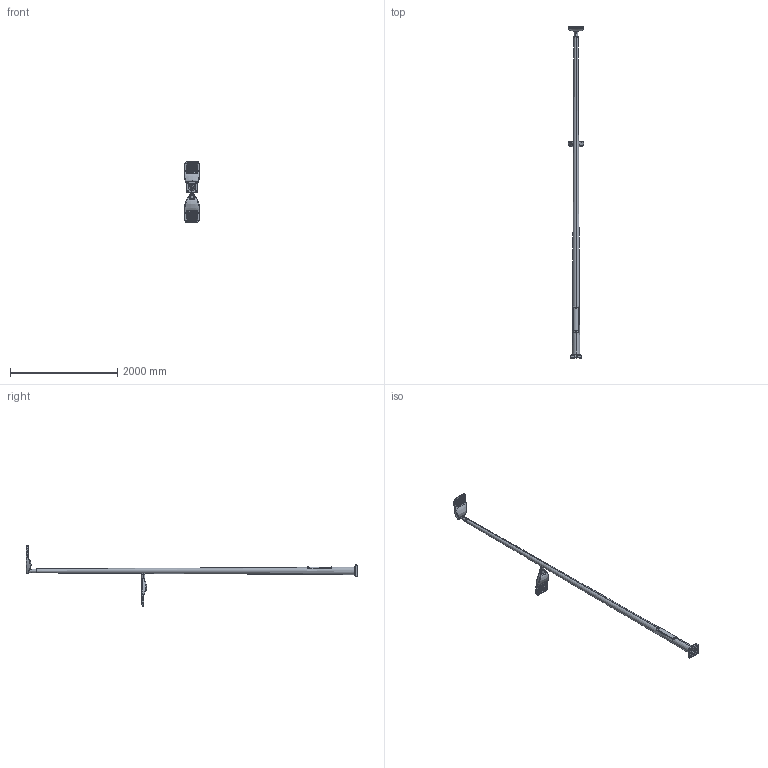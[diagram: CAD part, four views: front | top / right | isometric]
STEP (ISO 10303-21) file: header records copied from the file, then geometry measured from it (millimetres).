
FILE_DESCRIPTION (( 'STEP AP214' ), '1' );
FILE_NAME ('verta-2-6(60)-4(60)-(Ê200-150-4õ20)-ö+ïî.STEP', '2021-07-13T09:01:44', ( '' ), ( '' ), 'SwSTEP 2.0', 'SolidWorks 2020', '' );
FILE_SCHEMA (( 'AUTOMOTIVE_DESIGN' ));
Length unit declared in the file: millimetre
Products named in the file (22): BS-200(Ä139) -ïîëóêðûøêà (200-141); 栺鍣罻-verta-2-6; 200õ200õ10 (142),ì.ö.150, 4õ20_Ôëàíåö; BS-200(Ä139)-Ïîëóêðûøêà (200-141); Ñâåòèëüíèê SL7503-Âåðòà 40-60 Âò_180 ãðàä; SL7503-疋弪桦桕_2; BS-200(Ä139)- Äåêîðàòèâíûé öîêîëü; Ïëàíêà çàçåìëåíèÿ 35õ20; 膴樖錼膻嬅90 蜸馯; DIN-ðåéêà_ŽƒŠ-6; Îïîðà verta-2-6(60)-4(60)-(Ê200-150-4õ20)-ãö+ïî; ﾂ褞 40-60 ﾂ90 胙琅; 署赅 膻赅-verta-6; verta-2-6(60)-4(60)-(Ê200-150-4õ20)-ö+ïî; socket button head screw_iso_ISO 7380 - M6 x 16 - 16N; 妈眚 󊬱6 ISO 7380-1_16; 膴樖錼膻嬅180 蜸馯; ﾒ矜-verta-6; Ñòàíäàðíûå_Ðåçüáîâàÿ çàêë¸ïêà Ì6_Šàã£« ï à¥§ì¡®¢ ï § ª«¥¯ª  Œ8 á æ¨«¨­¤à¨ç¥áª¨¬ ¡ãàâ®¬ ®âªàëâ®£® â¨¯  ¨§ ­¥à¦ ¢¥îé¥© áâ «¨; BS-200(Ä139)-Ïëàòèê
Assembly tree (28 placements, depth 4):
  verta-2-6(60)-4(60)-(Ê200-150-4õ20)-ö+ïî
    Îïîðà verta-2-6(60)-4(60)-(Ê200-150-4õ20)-ãö+ïî
      栺鍣罻-verta-2-6
        栺鍣罻-verta-2-6
        200õ200õ10 (142),ì.ö.150, 4õ20_Ôëàíåö
        Ïëàíêà çàçåìëåíèÿ 35õ20
        DIN-ðåéêà_ŽƒŠ-6
        ﾒ矜-verta-6  x2
      署赅 膻赅-verta-6
      Ñòàíäàðíûå_Ðåçüáîâàÿ çàêë¸ïêà Ì6_Šàã£« ï à¥§ì¡®¢ ï § ª«¥¯ª  Œ8 á æ¨«¨­¤à¨ç¥áª¨¬ ¡ãàâ®¬ ®âªàëâ®£® â¨¯  ¨§ ­¥à¦ ¢¥îé¥© áâ «¨  x2
      socket button head screw_iso_ISO 7380 - M6 x 16 - 16N  x2
    ﾂ褞 40-60 ﾂ90 胙琅
      SL7503-疋弪桦桕_2
      膴樖錼膻嬅90 蜸馯
    BS-200(Ä139)- Äåêîðàòèâíûé öîêîëü
      BS-200(Ä139)-Ïîëóêðûøêà (200-141)
        BS-200(Ä139) -ïîëóêðûøêà (200-141)
        BS-200(Ä139)-Ïëàòèê
      BS-200(Ä139)-Ïîëóêðûøêà (200-141)
        BS-200(Ä139) -ïîëóêðûøêà (200-141)
        BS-200(Ä139)-Ïëàòèê
      妈眚 󊬱6 ISO 7380-1_16  x2
    Ñâåòèëüíèê SL7503-Âåðòà 40-60 Âò_180 ãðàä
      膴樖錼膻嬅180 蜸馯
      SL7503-疋弪桦桕_2
Bounding box: 289.03 x 6197.42 x 1142.86 mm (x, y, z)
Volume: 18026041.2 mm3; surface area: 5259057.6 mm2
Topology: 21 solids, 21 shells, 1176 faces, 2716 edges, 1698 vertices
Faces by surface type: plane 506, cone 252, cylinder 244, bspline 116, torus 38, sphere 20
Entity records: 32015 total; most frequent: CARTESIAN_POINT 14457, DIRECTION 3051, ORIENTED_EDGE 2974, EDGE_CURVE 1487, AXIS2_PLACEMENT_3D 1150, VERTEX_POINT 939, VECTOR 751, LINE 751
